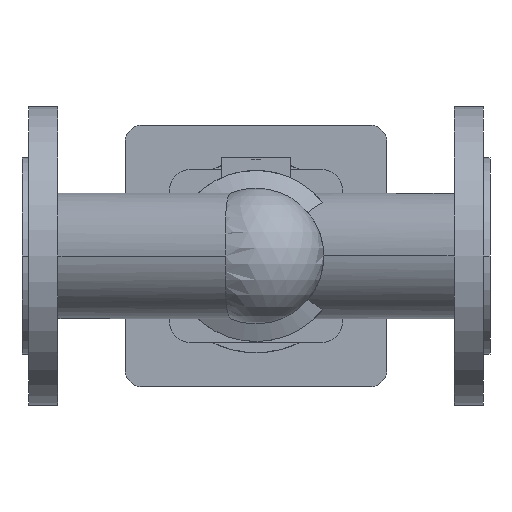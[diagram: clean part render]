
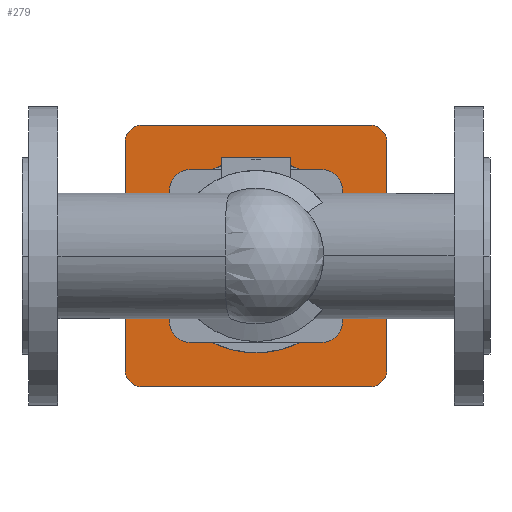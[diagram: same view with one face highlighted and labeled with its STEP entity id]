
A CAD part, front view. The second image highlights one B-rep face of the part: STEP entity #279.
In plain terms, the highlighted planar face has unit normal (0, -1, 0).
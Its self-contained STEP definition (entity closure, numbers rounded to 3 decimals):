
#279 = ADVANCED_FACE( '', ( #667, #668 ), #669, .F. );
#667 = FACE_OUTER_BOUND( '', #1081, .T. );
#668 = FACE_BOUND( '', #1082, .T. );
#669 = PLANE( '', #1083 );
#1081 = EDGE_LOOP( '', ( #2372, #2373, #2374, #2375, #2376, #2377, #2378, #2379 ) );
#1082 = EDGE_LOOP( '', ( #2380, #2381 ) );
#1083 = AXIS2_PLACEMENT_3D( '', #2382, #2383, #2384 );
#2372 = ORIENTED_EDGE( '', *, *, #2949, .F. );
#2373 = ORIENTED_EDGE( '', *, *, #2950, .F. );
#2374 = ORIENTED_EDGE( '', *, *, #2951, .F. );
#2375 = ORIENTED_EDGE( '', *, *, #2952, .F. );
#2376 = ORIENTED_EDGE( '', *, *, #2953, .F. );
#2377 = ORIENTED_EDGE( '', *, *, #2954, .F. );
#2378 = ORIENTED_EDGE( '', *, *, #2955, .F. );
#2379 = ORIENTED_EDGE( '', *, *, #2956, .F. );
#2380 = ORIENTED_EDGE( '', *, *, #2864, .F. );
#2381 = ORIENTED_EDGE( '', *, *, #2957, .F. );
#2382 = CARTESIAN_POINT( '', ( 145., 414., 0. ) );
#2383 = DIRECTION( '', ( 0., 1., 0. ) );
#2384 = DIRECTION( '', ( 0., 0., 1. ) );
#2864 = EDGE_CURVE( '', #3519, #3522, #3523, .T. );
#2949 = EDGE_CURVE( '', #3666, #3667, #3668, .T. );
#2950 = EDGE_CURVE( '', #3669, #3666, #3670, .T. );
#2951 = EDGE_CURVE( '', #3671, #3669, #3672, .T. );
#2952 = EDGE_CURVE( '', #3673, #3671, #3674, .T. );
#2953 = EDGE_CURVE( '', #3675, #3673, #3676, .T. );
#2954 = EDGE_CURVE( '', #3677, #3675, #3678, .T. );
#2955 = EDGE_CURVE( '', #3679, #3677, #3680, .T. );
#2956 = EDGE_CURVE( '', #3667, #3679, #3681, .T. );
#2957 = EDGE_CURVE( '', #3522, #3519, #3682, .T. );
#3519 = VERTEX_POINT( '', #4932 );
#3522 = VERTEX_POINT( '', #4936 );
#3523 = CIRCLE( '', #4937, 40. );
#3666 = VERTEX_POINT( '', #5135 );
#3667 = VERTEX_POINT( '', #5136 );
#3668 = CIRCLE( '', #5137, 10. );
#3669 = VERTEX_POINT( '', #5138 );
#3670 = LINE( '', #5139, #5140 );
#3671 = VERTEX_POINT( '', #5141 );
#3672 = CIRCLE( '', #5142, 10. );
#3673 = VERTEX_POINT( '', #5143 );
#3674 = LINE( '', #5144, #5145 );
#3675 = VERTEX_POINT( '', #5146 );
#3676 = CIRCLE( '', #5147, 10. );
#3677 = VERTEX_POINT( '', #5148 );
#3678 = LINE( '', #5149, #5150 );
#3679 = VERTEX_POINT( '', #5151 );
#3680 = CIRCLE( '', #5152, 10. );
#3681 = LINE( '', #5153, #5154 );
#3682 = CIRCLE( '', #5155, 40. );
#4932 = CARTESIAN_POINT( '', ( 105., 414., 0. ) );
#4936 = CARTESIAN_POINT( '', ( 185., 414., 0. ) );
#4937 = AXIS2_PLACEMENT_3D( '', #5822, #5823, #5824 );
#5135 = CARTESIAN_POINT( '', ( 64., 414., 71. ) );
#5136 = CARTESIAN_POINT( '', ( 74., 414., 81. ) );
#5137 = AXIS2_PLACEMENT_3D( '', #5967, #5968, #5969 );
#5138 = CARTESIAN_POINT( '', ( 64., 414., -71. ) );
#5139 = CARTESIAN_POINT( '', ( 64., 414., -71. ) );
#5140 = VECTOR( '', #5970, 1. );
#5141 = CARTESIAN_POINT( '', ( 74., 414., -81. ) );
#5142 = AXIS2_PLACEMENT_3D( '', #5971, #5972, #5973 );
#5143 = CARTESIAN_POINT( '', ( 216., 414., -81. ) );
#5144 = CARTESIAN_POINT( '', ( 216., 414., -81. ) );
#5145 = VECTOR( '', #5974, 1. );
#5146 = CARTESIAN_POINT( '', ( 226., 414., -71. ) );
#5147 = AXIS2_PLACEMENT_3D( '', #5975, #5976, #5977 );
#5148 = CARTESIAN_POINT( '', ( 226., 414., 71. ) );
#5149 = CARTESIAN_POINT( '', ( 226., 414., 71. ) );
#5150 = VECTOR( '', #5978, 1. );
#5151 = CARTESIAN_POINT( '', ( 216., 414., 81. ) );
#5152 = AXIS2_PLACEMENT_3D( '', #5979, #5980, #5981 );
#5153 = CARTESIAN_POINT( '', ( 74., 414., 81. ) );
#5154 = VECTOR( '', #5982, 1. );
#5155 = AXIS2_PLACEMENT_3D( '', #5983, #5984, #5985 );
#5822 = CARTESIAN_POINT( '', ( 145., 414., 0. ) );
#5823 = DIRECTION( '', ( 0., -1., 0. ) );
#5824 = DIRECTION( '', ( -1., 0., 0. ) );
#5967 = CARTESIAN_POINT( '', ( 74., 414., 71. ) );
#5968 = DIRECTION( '', ( 0., 1., 0. ) );
#5969 = DIRECTION( '', ( -1., 0., 0. ) );
#5970 = DIRECTION( '', ( 0., 0., 1. ) );
#5971 = CARTESIAN_POINT( '', ( 74., 414., -71. ) );
#5972 = DIRECTION( '', ( 0., 1., 0. ) );
#5973 = DIRECTION( '', ( 0., 0., -1. ) );
#5974 = DIRECTION( '', ( -1., 0., 0. ) );
#5975 = CARTESIAN_POINT( '', ( 216., 414., -71. ) );
#5976 = DIRECTION( '', ( 0., 1., 0. ) );
#5977 = DIRECTION( '', ( 1., 0., 0. ) );
#5978 = DIRECTION( '', ( 0., 0., -1. ) );
#5979 = CARTESIAN_POINT( '', ( 216., 414., 71. ) );
#5980 = DIRECTION( '', ( 0., 1., 0. ) );
#5981 = DIRECTION( '', ( 0., 0., 1. ) );
#5982 = DIRECTION( '', ( 1., 0., 0. ) );
#5983 = CARTESIAN_POINT( '', ( 145., 414., 0. ) );
#5984 = DIRECTION( '', ( 0., -1., 0. ) );
#5985 = DIRECTION( '', ( -1., 0., 0. ) );
